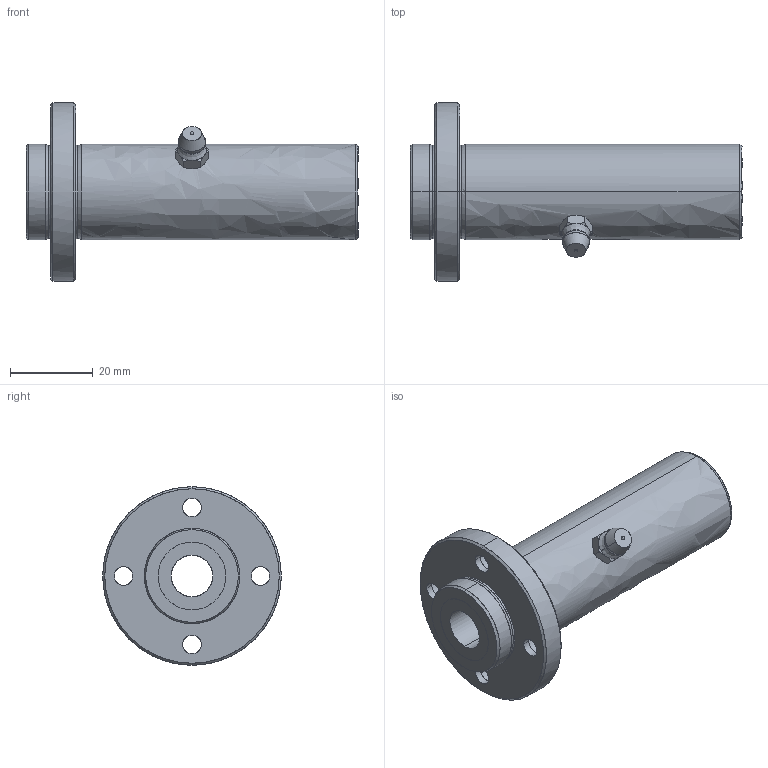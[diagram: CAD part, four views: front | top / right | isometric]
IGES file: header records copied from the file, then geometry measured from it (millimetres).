
Global section: file name: No Iges File Name specified; native system: AutoDesk Inventor R10; preprocessor: AutoDesk Inventor Iges Exporter R10; author: No Author specified; organization: No Organization specified; date: 20101211.162059; units: millimetre
Bounding box: 80 x 43 x 43 mm (x, y, z)
Surface area: 11931.4 mm2 (no closed solid volume)
Topology: 0 solids, 0 shells, 92 faces, 607 edges, 605 vertices
Faces by surface type: bspline 92
